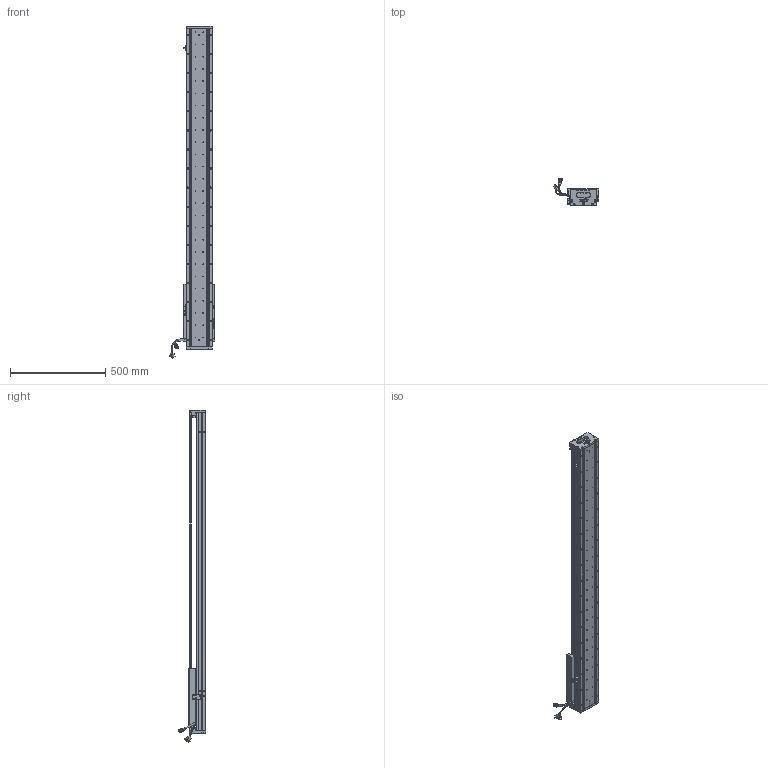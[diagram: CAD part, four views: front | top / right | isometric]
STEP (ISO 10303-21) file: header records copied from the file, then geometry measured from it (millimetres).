
FILE_DESCRIPTION (( 'STEP AP203' ), '1' );
FILE_NAME ('Z4-RY140D-1-L500-B-K.SLDASM_1300.step', '2021-05-17T08:16:14', ( '盈信电脑' ), ( '东莞市道滘镇水果街19号' ), 'SwSTEP 2.0', 'SolidWorks 2016', '' );
FILE_SCHEMA (( 'CONFIG_CONTROL_DESIGN' ));
Length unit declared in the file: millimetre
Products named in the file (36): 080黍杅芛假蚾釱21遴; COVER; HARNESS-Part-2; SCREW-M1.7-1; 140蚥薯蝶輸; 140雄赽晤鎢ん堤盄; Z-RY140感应器672光电感应片; LABEL; 詩湍狟揤裔; SCALE-Part-2; 榋妏寠巭燃_暯_M2_2; Z4-RY140D-1-L500-B-K.SLDASM_1300; 覜茼ん672; HOLDER0; HARNESS; SCREW-M1.7; PSLH080_PSLF2; Z4-RY140-L500直线电机模组底座_1300; SHIELDPLATE; SCALE; SCREW-M1.6; SCREW-M1.6-1; Z4-RY140-L500詩湍100mm遵_1300; COVER-Part-1; SCREW-M1.6-2; SCALE-Part-1; HARNESS-Part-1; 詩湍奻揤裔; PBU_SHEET; Z-140詩湍傷裔啣; SEAL-Part-1; SEAL; 140-Z-臏賑輸盄裔(21遴); SCREW-M1.6-3; Z4-RY140圉猾敕臏賑輸(21遴); LABEL-Part-1
Assembly tree (41 placements, depth 4):
  Z4-RY140D-1-L500-B-K.SLDASM_1300
    Z4-RY140-L500直线电机模组底座_1300
    Z-RY140感应器672光电感应片
    Z4-RY140圉猾敕臏賑輸(21遴)
    覜茼ん672  x3
    Z4-RY140-L500詩湍100mm遵_1300
    PSLH080_PSLF2
      SCALE
        SCALE-Part-1
        SCALE-Part-2
      HARNESS
        HARNESS-Part-1
        HARNESS-Part-2
      LABEL
        LABEL-Part-1
      COVER
        COVER-Part-1
      SEAL
        SEAL-Part-1
      榋妏寠巭燃_暯_M2_2
      SHIELDPLATE
      SCREW-M1.7
      SCREW-M1.7-1
      PBU_SHEET
      SCREW-M1.6
      SCREW-M1.6-1
      SCREW-M1.6-2
      SCREW-M1.6-3
      HOLDER0
    080黍杅芛假蚾釱21遴
    140-Z-臏賑輸盄裔(21遴)
    Z-140詩湍傷裔啣  x2
    詩湍狟揤裔  x2
    詩湍奻揤裔  x2
    140蚥薯蝶輸  x2
    140雄赽晤鎢ん堤盄
Bounding box: 239.83 x 143.88 x 1740.87 mm (x, y, z)
Volume: 6123565.3 mm3; surface area: 1568494.5 mm2
Topology: 36 solids, 36 shells, 3478 faces, 9320 edges, 5903 vertices
Faces by surface type: cylinder 1770, plane 1244, cone 342, torus 69, bspline 53
Entity records: 106368 total; most frequent: CARTESIAN_POINT 28585, ORIENTED_EDGE 15680, DIRECTION 14980, EDGE_CURVE 7840, AXIS2_PLACEMENT_3D 5546, VERTEX_POINT 5071, VECTOR 3888, LINE 3888
